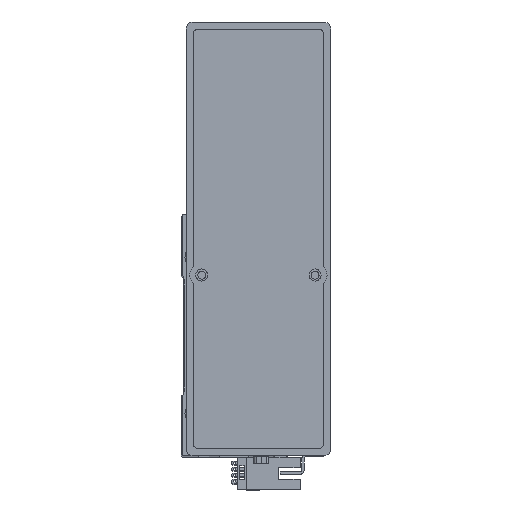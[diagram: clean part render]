
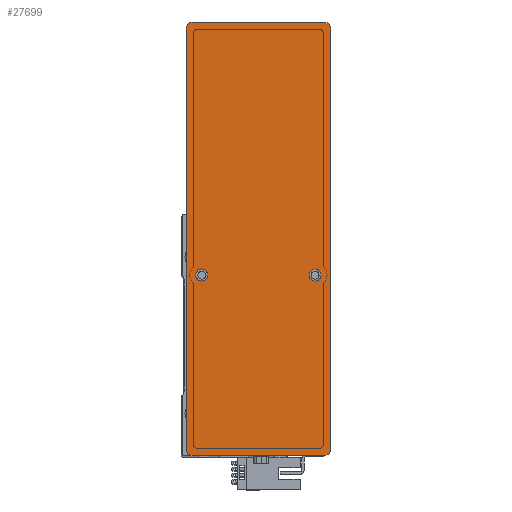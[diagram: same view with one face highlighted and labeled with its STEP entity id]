
A CAD part, top view. The second image highlights one B-rep face of the part: STEP entity #27699.
In plain terms, the highlighted planar face has unit normal (0, 0, 1) as drawn and (0, 0, -1) by its records, which use the part's own axes.
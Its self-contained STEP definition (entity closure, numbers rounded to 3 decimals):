
#98 = DIRECTION ( 'NONE',  ( 1., 0., 0. ) ) ;
#885 = CIRCLE ( 'NONE', #1528, 3. ) ;
#1224 = ORIENTED_EDGE ( 'NONE', *, *, #25490, .T. ) ;
#1516 = DIRECTION ( 'NONE',  ( -1., 0., 0. ) ) ;
#1528 = AXIS2_PLACEMENT_3D ( 'NONE', #5408, #26646, #8455 ) ;
#1638 = VERTEX_POINT ( 'NONE', #36807 ) ;
#2061 = LINE ( 'NONE', #21172, #33436 ) ;
#2098 = DIRECTION ( 'NONE',  ( 0., 0., 1. ) ) ;
#2214 = CARTESIAN_POINT ( 'NONE',  ( 87., -27., 0. ) ) ;
#2725 = EDGE_CURVE ( 'NONE', #38698, #31570, #24863, .T. ) ;
#3563 = VERTEX_POINT ( 'NONE', #3623 ) ;
#3623 = CARTESIAN_POINT ( 'NONE',  ( -90., 27., 0. ) ) ;
#4780 = FACE_BOUND ( 'NONE', #30541, .T. ) ;
#4793 = VERTEX_POINT ( 'NONE', #7444 ) ;
#4803 = PLANE ( 'NONE',  #16679 ) ;
#4898 = EDGE_CURVE ( 'NONE', #20592, #1638, #39072, .T. ) ;
#5298 = DIRECTION ( 'NONE',  ( 1., 0., 0. ) ) ;
#5408 = CARTESIAN_POINT ( 'NONE',  ( -87., -27., 0. ) ) ;
#6107 = CIRCLE ( 'NONE', #37094, 3. ) ;
#6191 = DIRECTION ( 'NONE',  ( 0., 0., -1. ) ) ;
#7444 = CARTESIAN_POINT ( 'NONE',  ( -17.5, 23.5, 0. ) ) ;
#7830 = VECTOR ( 'NONE', #98, 1000. ) ;
#8154 = CIRCLE ( 'NONE', #9227, 3. ) ;
#8420 = CARTESIAN_POINT ( 'NONE',  ( -12.5, -23.5, 0. ) ) ;
#8455 = DIRECTION ( 'NONE',  ( 1., 0., 0. ) ) ;
#8532 = DIRECTION ( 'NONE',  ( 0., 1., 0. ) ) ;
#9107 = CARTESIAN_POINT ( 'NONE',  ( -15., 23.5, 0. ) ) ;
#9227 = AXIS2_PLACEMENT_3D ( 'NONE', #12223, #33419, #15213 ) ;
#9480 = EDGE_CURVE ( 'NONE', #20958, #4793, #36928, .T. ) ;
#11168 = CARTESIAN_POINT ( 'NONE',  ( 90., 27., 0. ) ) ;
#11294 = CARTESIAN_POINT ( 'NONE',  ( 90., 30., 0. ) ) ;
#11445 = CIRCLE ( 'NONE', #16486, 2.5 ) ;
#11602 = CARTESIAN_POINT ( 'NONE',  ( 90., -30., 0. ) ) ;
#11899 = FACE_BOUND ( 'NONE', #21896, .T. ) ;
#12194 = DIRECTION ( 'NONE',  ( -1., 0., 0. ) ) ;
#12223 = CARTESIAN_POINT ( 'NONE',  ( 87., 27., 0. ) ) ;
#12424 = CARTESIAN_POINT ( 'NONE',  ( -17.5, -23.5, 0. ) ) ;
#13192 = CIRCLE ( 'NONE', #21281, 2.5 ) ;
#13817 = EDGE_CURVE ( 'NONE', #3563, #1638, #19223, .T. ) ;
#13841 = EDGE_CURVE ( 'NONE', #14263, #30844, #33434, .T. ) ;
#14263 = VERTEX_POINT ( 'NONE', #33300 ) ;
#14308 = DIRECTION ( 'NONE',  ( -1., 0., 0. ) ) ;
#14465 = ORIENTED_EDGE ( 'NONE', *, *, #13817, .T. ) ;
#14625 = DIRECTION ( 'NONE',  ( 0., 0., -1. ) ) ;
#14838 = EDGE_CURVE ( 'NONE', #4793, #20958, #11445, .T. ) ;
#14920 = LINE ( 'NONE', #18385, #7830 ) ;
#15213 = DIRECTION ( 'NONE',  ( 1., 0., 0. ) ) ;
#15287 = ORIENTED_EDGE ( 'NONE', *, *, #17401, .T. ) ;
#15869 = DIRECTION ( 'NONE',  ( 0., 0., -1. ) ) ;
#16157 = ORIENTED_EDGE ( 'NONE', *, *, #18587, .T. ) ;
#16486 = AXIS2_PLACEMENT_3D ( 'NONE', #9107, #30382, #12194 ) ;
#16679 = AXIS2_PLACEMENT_3D ( 'NONE', #17256, #2098, #23345 ) ;
#17256 = CARTESIAN_POINT ( 'NONE',  ( 0., 0., 0. ) ) ;
#17289 = VECTOR ( 'NONE', #8532, 1000. ) ;
#17401 = EDGE_CURVE ( 'NONE', #20592, #30844, #8154, .T. ) ;
#17529 = ORIENTED_EDGE ( 'NONE', *, *, #13841, .F. ) ;
#18385 = CARTESIAN_POINT ( 'NONE',  ( 90., -30., 0. ) ) ;
#18587 = EDGE_CURVE ( 'NONE', #14263, #27886, #6107, .T. ) ;
#18909 = EDGE_CURVE ( 'NONE', #31570, #38698, #13192, .T. ) ;
#18950 = ORIENTED_EDGE ( 'NONE', *, *, #18909, .F. ) ;
#19223 = CIRCLE ( 'NONE', #23484, 3. ) ;
#19632 = CARTESIAN_POINT ( 'NONE',  ( 87., 30., 0. ) ) ;
#19680 = ORIENTED_EDGE ( 'NONE', *, *, #14838, .F. ) ;
#19770 = DIRECTION ( 'NONE',  ( 0., 0., -1. ) ) ;
#20469 = CARTESIAN_POINT ( 'NONE',  ( -87., -30., 0. ) ) ;
#20592 = VERTEX_POINT ( 'NONE', #19632 ) ;
#20958 = VERTEX_POINT ( 'NONE', #21184 ) ;
#21172 = CARTESIAN_POINT ( 'NONE',  ( -90., -30., 0. ) ) ;
#21184 = CARTESIAN_POINT ( 'NONE',  ( -12.5, 23.5, 0. ) ) ;
#21281 = AXIS2_PLACEMENT_3D ( 'NONE', #34098, #15869, #37185 ) ;
#21436 = VERTEX_POINT ( 'NONE', #20469 ) ;
#21896 = EDGE_LOOP ( 'NONE', ( #19680, #25883 ) ) ;
#21988 = VECTOR ( 'NONE', #14308, 1000. ) ;
#22046 = ORIENTED_EDGE ( 'NONE', *, *, #35539, .F. ) ;
#22553 = AXIS2_PLACEMENT_3D ( 'NONE', #37984, #19770, #1516 ) ;
#23345 = DIRECTION ( 'NONE',  ( 1., 0., 0. ) ) ;
#23453 = DIRECTION ( 'NONE',  ( 0., 0., -1. ) ) ;
#23484 = AXIS2_PLACEMENT_3D ( 'NONE', #32799, #14625, #35919 ) ;
#23521 = CARTESIAN_POINT ( 'NONE',  ( -90., -27., 0. ) ) ;
#24214 = DIRECTION ( 'NONE',  ( 0., -1., 0. ) ) ;
#24340 = CARTESIAN_POINT ( 'NONE',  ( -15., 23.5, 0. ) ) ;
#24863 = CIRCLE ( 'NONE', #22553, 2.5 ) ;
#25490 = EDGE_CURVE ( 'NONE', #21436, #33161, #885, .T. ) ;
#25883 = ORIENTED_EDGE ( 'NONE', *, *, #9480, .F. ) ;
#26646 = DIRECTION ( 'NONE',  ( 0., 0., -1. ) ) ;
#27433 = DIRECTION ( 'NONE',  ( -1., 0., 0. ) ) ;
#27625 = ORIENTED_EDGE ( 'NONE', *, *, #4898, .F. ) ;
#27699 = ADVANCED_FACE ( 'NONE', ( #11899, #4780, #28068 ), #4803, .F. ) ;
#27886 = VERTEX_POINT ( 'NONE', #36257 ) ;
#28068 = FACE_OUTER_BOUND ( 'NONE', #33607, .T. ) ;
#28523 = AXIS2_PLACEMENT_3D ( 'NONE', #24340, #6191, #27433 ) ;
#30227 = ORIENTED_EDGE ( 'NONE', *, *, #33287, .F. ) ;
#30382 = DIRECTION ( 'NONE',  ( 0., 0., -1. ) ) ;
#30541 = EDGE_LOOP ( 'NONE', ( #31573, #18950 ) ) ;
#30844 = VERTEX_POINT ( 'NONE', #11168 ) ;
#31570 = VERTEX_POINT ( 'NONE', #8420 ) ;
#31573 = ORIENTED_EDGE ( 'NONE', *, *, #2725, .F. ) ;
#32799 = CARTESIAN_POINT ( 'NONE',  ( -87., 27., 0. ) ) ;
#33161 = VERTEX_POINT ( 'NONE', #23521 ) ;
#33287 = EDGE_CURVE ( 'NONE', #21436, #27886, #14920, .T. ) ;
#33300 = CARTESIAN_POINT ( 'NONE',  ( 90., -27., 0. ) ) ;
#33419 = DIRECTION ( 'NONE',  ( 0., 0., -1. ) ) ;
#33434 = LINE ( 'NONE', #11602, #17289 ) ;
#33436 = VECTOR ( 'NONE', #24214, 1000. ) ;
#33607 = EDGE_LOOP ( 'NONE', ( #17529, #16157, #30227, #1224, #22046, #14465, #27625, #15287 ) ) ;
#34098 = CARTESIAN_POINT ( 'NONE',  ( -15., -23.5, 0. ) ) ;
#35539 = EDGE_CURVE ( 'NONE', #3563, #33161, #2061, .T. ) ;
#35919 = DIRECTION ( 'NONE',  ( 1., 0., 0. ) ) ;
#36257 = CARTESIAN_POINT ( 'NONE',  ( 87., -30., 0. ) ) ;
#36807 = CARTESIAN_POINT ( 'NONE',  ( -87., 30., 0. ) ) ;
#36928 = CIRCLE ( 'NONE', #28523, 2.5 ) ;
#37094 = AXIS2_PLACEMENT_3D ( 'NONE', #2214, #23453, #5298 ) ;
#37185 = DIRECTION ( 'NONE',  ( -1., 0., 0. ) ) ;
#37984 = CARTESIAN_POINT ( 'NONE',  ( -15., -23.5, 0. ) ) ;
#38698 = VERTEX_POINT ( 'NONE', #12424 ) ;
#39072 = LINE ( 'NONE', #11294, #21988 ) ;
